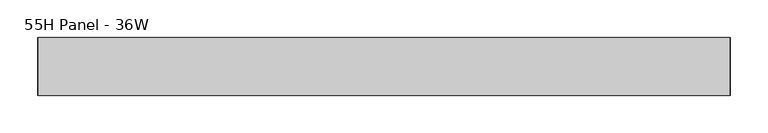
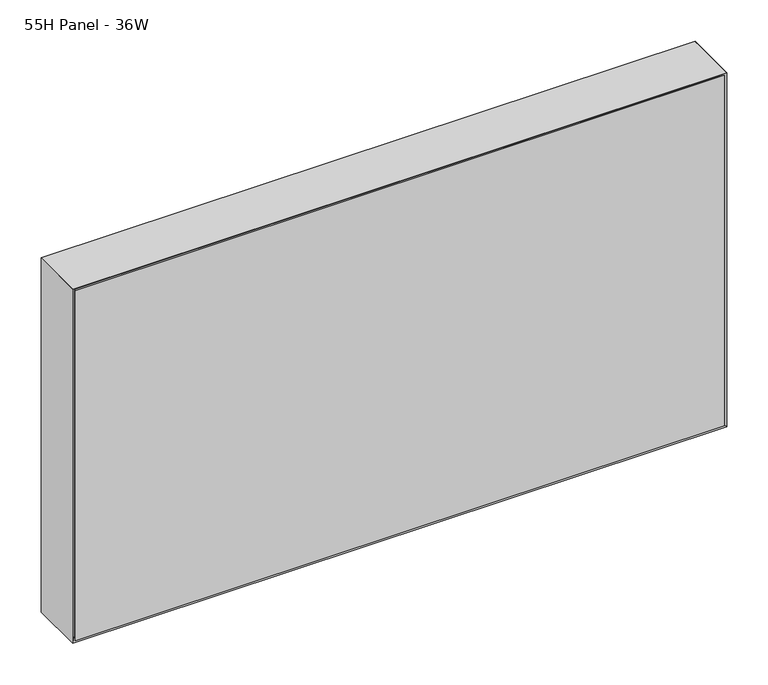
"""IFC4 building model written with IfcOpenShell, lengths in millimetres: furniture geometry, Steelcase - Montage - Frame - 20H - Enhanced Standard - Single Stack-On : 55H Panel - 36W."""

from ifc_helpers import new_model, si_unit, frame, origin, place, context, project, spatial, polyline, outline, extrude, faceted_brep, source, transform, mapped, element, save


def furniture_55h_panel_36w_ef72a5a2(model_context):
    return source(origin(), model_context, "Body", "SolidModel", [
        faceted_brep([(904.8750027, 31.7500194, 1912.9374516), (9.5250028, 31.7500194, 1912.9374516), (9.5250028, 31.7500194, 1408.1125), (904.8750027, 31.7500194, 1408.1125), (911.225, 38.1000194, 1919.2874516), (911.225, 38.1000194, 1401.7625), (3.175, 38.1000194, 1401.7625), (3.175, 38.1000194, 1919.2874516)], [[[0, 1, 2, 3]], [[4, 5, 6, 7]], [[4, 0, 3, 5]], [[5, 3, 2, 6]], [[6, 2, 1, 7]], [[7, 1, 0, 4]]]),
        faceted_brep([(904.8750027, -31.7500194, 1912.9374516), (904.8750027, -31.7500194, 1408.1125), (9.5250028, -31.7500194, 1408.1125), (9.5250028, -31.7500194, 1912.9374516), (911.225, -38.1000194, 1919.2874516), (3.175, -38.1000194, 1919.2874516), (3.175, -38.1000194, 1401.7625), (911.225, -38.1000194, 1401.7625)], [[[0, 1, 2, 3]], [[4, 5, 6, 7]], [[4, 7, 1, 0]], [[7, 6, 2, 1]], [[6, 5, 3, 2]], [[5, 4, 0, 3]]]),
        faceted_brep([(914.4, -38.1000015, 1398.5875), (914.4, 38.1000015, 1398.5875), (914.4, 38.1000015, 1922.4624516), (914.4, -38.1000106, 1922.4624515), (0.0, 38.1000015, 1398.5875), (0.0, -38.1000015, 1398.5875), (0.0, -38.1000015, 1922.4624516), (0.0, 38.1000015, 1922.4624516), (6.3500484, 31.749953, 1404.9375484), (908.0499879, 31.749953, 1404.9375484), (6.35, -31.749953, 1404.9375484), (908.0499879, -31.749953, 1404.9375484), (6.3500165, 31.749985, 1916.112435), (6.3500006, -31.7500009, 1916.1124031), (908.0499879, -31.7499979, 1916.1124031), (908.0499879, 31.7499889, 1916.1124394)], [[[0, 1, 2, 3]], [[4, 5, 6, 7]], [[1, 0, 5, 4]], [[1, 4, 8, 9]], [[9, 8, 10, 11]], [[5, 0, 11, 10]], [[4, 7, 12, 8]], [[6, 5, 10, 13]], [[10, 8, 12, 13]], [[9, 11, 14, 15]], [[0, 3, 14, 11]], [[2, 1, 9, 15]], [[3, 2, 15, 14]], [[7, 6, 13, 12]]]),
        faceted_brep([(914.4, -38.1000015, 1922.4624516), (0.0, -38.1000015, 1922.4624516), (6.3500484, -31.749953, 1916.1124031), (908.0499516, -31.749953, 1916.1124031), (6.3500484, 31.749953, 1916.1124031), (908.0499516, 31.749953, 1916.1124031), (0.0, 38.1000015, 1922.4624516), (914.4, 38.1000015, 1922.4624516)], [[[0, 1, 2, 3]], [[3, 2, 4, 5]], [[6, 7, 5, 4]], [[1, 0, 7, 6]], [[2, 1, 6, 4]], [[0, 3, 5, 7]]]),
        extrude(outline(polyline([(908.0499879, 31.7500016), (908.0499879, -31.7499985), (6.35, -31.7499985), (6.35, 31.7500016), (908.0499879, 31.7500016)])), frame((0.0, 0.0, 1404.9327145), z_axis=(0.0, 0.0, 1.0), x_axis=(1.0, 0.0, 0.0)), (0.0, 0.0, 1.0), 511.1796886),
    ])


if __name__ == "__main__":
    model = new_model("IFC4")
    model_context = context("Model", 3, world=origin())
    ifc_project = project(units=[si_unit("LENGTHUNIT", "METRE", prefix="MILLI")], contexts=[model_context])
    site = spatial("IfcSite", under=ifc_project)
    building = spatial("IfcBuilding", under=site)
    placement = place(None, origin())
    furniture_55h_panel_36w_shape = furniture_55h_panel_36w_ef72a5a2(model_context)
    element("IfcFurniture", 1, ObjectType="Steelcase - Montage - Frame - 20H - Enhanced Standard - Single Stack-On : 55H Panel - 36W", at=placement, inside=building, context=model_context, shape_type="MappedRepresentation", body=[
        mapped(furniture_55h_panel_36w_shape, transform((0.0, 0.0, 0.0), x_axis=(1.0, 0.0, 0.0), y_axis=(0.0, 1.0, 0.0), z_axis=(0.0, 0.0, 1.0))),
    ])
    save(model, "model.ifc")
